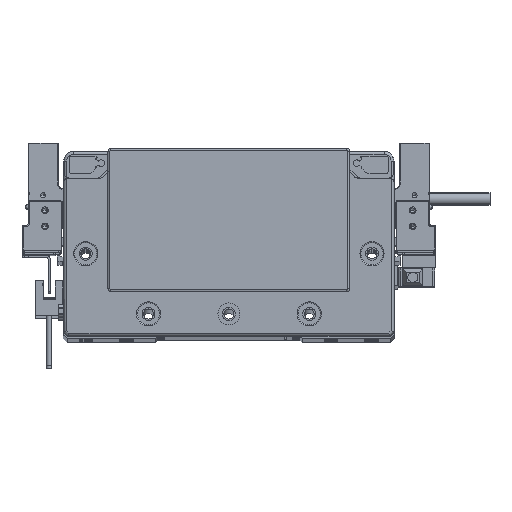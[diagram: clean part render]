
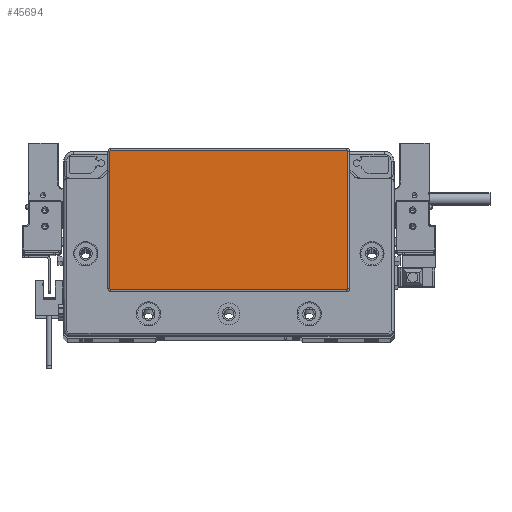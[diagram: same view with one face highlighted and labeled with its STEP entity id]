
A CAD part, top view. The second image highlights one B-rep face of the part: STEP entity #45694.
In plain terms, the highlighted planar face has unit normal (0, 0, 1) as drawn and (0, 0, -1) by its records, which use the part's own axes.
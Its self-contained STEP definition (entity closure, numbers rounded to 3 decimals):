
#253 = EDGE_CURVE ( 'NONE', #92652, #17091, #38780, .T. ) ;
#1700 = AXIS2_PLACEMENT_3D ( 'NONE', #32259, #3831, #11174 ) ;
#2670 = LINE ( 'NONE', #55528, #32816 ) ;
#3831 = DIRECTION ( 'NONE',  ( 0., 0., -1. ) ) ;
#4210 = EDGE_CURVE ( 'NONE', #68176, #17268, #43964, .T. ) ;
#4885 = DIRECTION ( 'NONE',  ( -1., 0., 0. ) ) ;
#5554 = CARTESIAN_POINT ( 'NONE',  ( -58.75, -23.8, -2. ) ) ;
#8752 = VERTEX_POINT ( 'NONE', #44845 ) ;
#10351 = DIRECTION ( 'NONE',  ( -1., 0., 0. ) ) ;
#11013 = ORIENTED_EDGE ( 'NONE', *, *, #4210, .T. ) ;
#11174 = DIRECTION ( 'NONE',  ( -1., 0., 0. ) ) ;
#15235 = CARTESIAN_POINT ( 'NONE',  ( 59.25, -23.3, -2. ) ) ;
#17091 = VERTEX_POINT ( 'NONE', #34434 ) ;
#17268 = VERTEX_POINT ( 'NONE', #51992 ) ;
#18172 = DIRECTION ( 'NONE',  ( 1., 0., 0. ) ) ;
#18409 = PLANE ( 'NONE',  #68190 ) ;
#19344 = EDGE_CURVE ( 'NONE', #56282, #68176, #77443, .T. ) ;
#22187 = DIRECTION ( 'NONE',  ( -1., 0., 0. ) ) ;
#23525 = AXIS2_PLACEMENT_3D ( 'NONE', #29846, #45971, #38631 ) ;
#24715 = ORIENTED_EDGE ( 'NONE', *, *, #86377, .T. ) ;
#25965 = CARTESIAN_POINT ( 'NONE',  ( 58.75, -23.3, -2. ) ) ;
#28589 = LINE ( 'NONE', #5554, #37022 ) ;
#28930 = CARTESIAN_POINT ( 'NONE',  ( -59.25, -23.3, -2. ) ) ;
#29477 = DIRECTION ( 'NONE',  ( 0., -1., 0. ) ) ;
#29846 = CARTESIAN_POINT ( 'NONE',  ( -58.75, 45.3, -2. ) ) ;
#29937 = ORIENTED_EDGE ( 'NONE', *, *, #19344, .T. ) ;
#32259 = CARTESIAN_POINT ( 'NONE',  ( 58.75, 45.3, -2. ) ) ;
#32816 = VECTOR ( 'NONE', #47704, 1000. ) ;
#33123 = AXIS2_PLACEMENT_3D ( 'NONE', #33858, #41676, #10351 ) ;
#33857 = CARTESIAN_POINT ( 'NONE',  ( 58.75, 45.8, -2. ) ) ;
#33858 = CARTESIAN_POINT ( 'NONE',  ( -58.75, -23.3, -2. ) ) ;
#34434 = CARTESIAN_POINT ( 'NONE',  ( 58.75, -23.8, -2. ) ) ;
#37022 = VECTOR ( 'NONE', #22187, 1000. ) ;
#38631 = DIRECTION ( 'NONE',  ( -1., 0., 0. ) ) ;
#38780 = CIRCLE ( 'NONE', #45056, 0.5 ) ;
#39419 = CIRCLE ( 'NONE', #33123, 0.5 ) ;
#41676 = DIRECTION ( 'NONE',  ( 0., 0., -1. ) ) ;
#41916 = FACE_OUTER_BOUND ( 'NONE', #70601, .T. ) ;
#43964 = CIRCLE ( 'NONE', #1700, 0.5 ) ;
#44845 = CARTESIAN_POINT ( 'NONE',  ( -58.75, -23.8, -2. ) ) ;
#45056 = AXIS2_PLACEMENT_3D ( 'NONE', #25965, #47976, #4885 ) ;
#45694 = ADVANCED_FACE ( 'NONE', ( #41916 ), #18409, .T. ) ;
#45971 = DIRECTION ( 'NONE',  ( 0., 0., -1. ) ) ;
#46194 = ORIENTED_EDGE ( 'NONE', *, *, #53823, .T. ) ;
#46426 = VERTEX_POINT ( 'NONE', #60785 ) ;
#47704 = DIRECTION ( 'NONE',  ( 0., 1., 0. ) ) ;
#47763 = VERTEX_POINT ( 'NONE', #28930 ) ;
#47976 = DIRECTION ( 'NONE',  ( 0., 0., -1. ) ) ;
#48778 = CARTESIAN_POINT ( 'NONE',  ( 0., 0., -2. ) ) ;
#48993 = EDGE_CURVE ( 'NONE', #47763, #46426, #2670, .T. ) ;
#50051 = ORIENTED_EDGE ( 'NONE', *, *, #59428, .T. ) ;
#51992 = CARTESIAN_POINT ( 'NONE',  ( 59.25, 45.3, -2. ) ) ;
#53823 = EDGE_CURVE ( 'NONE', #17091, #8752, #28589, .T. ) ;
#55528 = CARTESIAN_POINT ( 'NONE',  ( -59.25, 45.3, -2. ) ) ;
#56282 = VERTEX_POINT ( 'NONE', #90646 ) ;
#57057 = DIRECTION ( 'NONE',  ( -1., 0., 0. ) ) ;
#59428 = EDGE_CURVE ( 'NONE', #8752, #47763, #39419, .T. ) ;
#60785 = CARTESIAN_POINT ( 'NONE',  ( -59.25, 45.3, -2. ) ) ;
#66629 = ORIENTED_EDGE ( 'NONE', *, *, #48993, .T. ) ;
#68176 = VERTEX_POINT ( 'NONE', #88151 ) ;
#68190 = AXIS2_PLACEMENT_3D ( 'NONE', #48778, #85986, #57057 ) ;
#70601 = EDGE_LOOP ( 'NONE', ( #24715, #84372, #46194, #50051, #66629, #88314, #29937, #11013 ) ) ;
#76371 = VECTOR ( 'NONE', #29477, 1000. ) ;
#77443 = LINE ( 'NONE', #33857, #87120 ) ;
#79494 = CARTESIAN_POINT ( 'NONE',  ( 59.25, -23.3, -2. ) ) ;
#80253 = EDGE_CURVE ( 'NONE', #46426, #56282, #84488, .T. ) ;
#80887 = LINE ( 'NONE', #15235, #76371 ) ;
#84372 = ORIENTED_EDGE ( 'NONE', *, *, #253, .T. ) ;
#84488 = CIRCLE ( 'NONE', #23525, 0.5 ) ;
#85986 = DIRECTION ( 'NONE',  ( 0., 0., -1. ) ) ;
#86377 = EDGE_CURVE ( 'NONE', #17268, #92652, #80887, .T. ) ;
#87120 = VECTOR ( 'NONE', #18172, 1000. ) ;
#88151 = CARTESIAN_POINT ( 'NONE',  ( 58.75, 45.8, -2. ) ) ;
#88314 = ORIENTED_EDGE ( 'NONE', *, *, #80253, .T. ) ;
#90646 = CARTESIAN_POINT ( 'NONE',  ( -58.75, 45.8, -2. ) ) ;
#92652 = VERTEX_POINT ( 'NONE', #79494 ) ;
